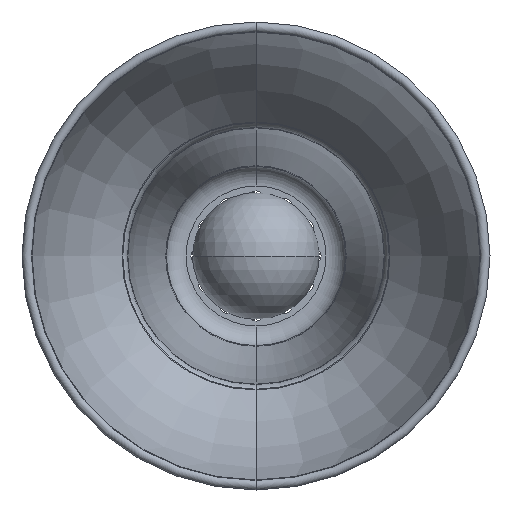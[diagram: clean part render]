
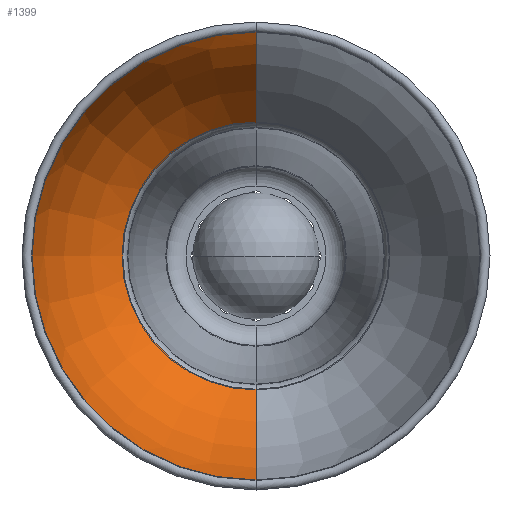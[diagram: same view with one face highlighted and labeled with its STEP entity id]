
A CAD part, front view. The second image highlights one B-rep face of the part: STEP entity #1399.
In plain terms, the highlighted toroidal (fillet/blend) face has major radius 105.017 mm and minor radius 323.006 mm.
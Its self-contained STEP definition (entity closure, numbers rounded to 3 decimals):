
#92 = CARTESIAN_POINT ( 'NONE',  ( 0., 174.821, 126.24 ) ) ;
#95 = VERTEX_POINT ( 'NONE', #92 ) ;
#104 = AXIS2_PLACEMENT_3D ( 'NONE', #1362, #2389, #1975 ) ;
#129 = CIRCLE ( 'NONE', #1807, 323.006 ) ;
#179 = EDGE_LOOP ( 'NONE', ( #1136, #924, #324, #1348 ) ) ;
#219 = DIRECTION ( 'NONE',  ( 1., 0., 0. ) ) ;
#234 = DIRECTION ( 'NONE',  ( 0., 1., 0. ) ) ;
#237 = CARTESIAN_POINT ( 'NONE',  ( 0., -50.686, 105.017 ) ) ;
#249 = CARTESIAN_POINT ( 'NONE',  ( 0., -50.686, -105.017 ) ) ;
#320 = EDGE_CURVE ( 'NONE', #1051, #859, #2391, .T. ) ;
#324 = ORIENTED_EDGE ( 'NONE', *, *, #362, .T. ) ;
#362 = EDGE_CURVE ( 'NONE', #890, #95, #1256, .T. ) ;
#404 = AXIS2_PLACEMENT_3D ( 'NONE', #237, #219, #1805 ) ;
#827 = CARTESIAN_POINT ( 'NONE',  ( 0., 6.968, 212.802 ) ) ;
#846 = EDGE_CURVE ( 'NONE', #1051, #890, #2562, .T. ) ;
#859 = VERTEX_POINT ( 'NONE', #827 ) ;
#890 = VERTEX_POINT ( 'NONE', #1215 ) ;
#924 = ORIENTED_EDGE ( 'NONE', *, *, #846, .T. ) ;
#996 = DIRECTION ( 'NONE',  ( 0., 1., 0. ) ) ;
#1051 = VERTEX_POINT ( 'NONE', #1693 ) ;
#1136 = ORIENTED_EDGE ( 'NONE', *, *, #320, .F. ) ;
#1215 = CARTESIAN_POINT ( 'NONE',  ( 0., 174.821, -126.24 ) ) ;
#1256 = CIRCLE ( 'NONE', #1860, 126.24 ) ;
#1348 = ORIENTED_EDGE ( 'NONE', *, *, #2447, .F. ) ;
#1362 = CARTESIAN_POINT ( 'NONE',  ( 0., 6.968, 0. ) ) ;
#1399 = ADVANCED_FACE ( 'NONE', ( #2456 ), #1896, .F. ) ;
#1571 = DIRECTION ( 'NONE',  ( 0., 0., 1. ) ) ;
#1649 = DIRECTION ( 'NONE',  ( -1., 0., 0. ) ) ;
#1693 = CARTESIAN_POINT ( 'NONE',  ( 0., 6.968, -212.802 ) ) ;
#1793 = CARTESIAN_POINT ( 'NONE',  ( 0., 174.821, 0. ) ) ;
#1805 = DIRECTION ( 'NONE',  ( 0., 0., -1. ) ) ;
#1807 = AXIS2_PLACEMENT_3D ( 'NONE', #249, #1649, #2257 ) ;
#1826 = DIRECTION ( 'NONE',  ( 0., 0., 1. ) ) ;
#1860 = AXIS2_PLACEMENT_3D ( 'NONE', #1793, #996, #1571 ) ;
#1896 = TOROIDAL_SURFACE ( 'NONE', #2461, -105.017, 323.006 ) ;
#1975 = DIRECTION ( 'NONE',  ( 0., 0., 1. ) ) ;
#2242 = CARTESIAN_POINT ( 'NONE',  ( 0., -50.686, 0. ) ) ;
#2257 = DIRECTION ( 'NONE',  ( 0., 0., 1. ) ) ;
#2389 = DIRECTION ( 'NONE',  ( 0., 1., 0. ) ) ;
#2391 = CIRCLE ( 'NONE', #104, 212.802 ) ;
#2447 = EDGE_CURVE ( 'NONE', #859, #95, #129, .T. ) ;
#2456 = FACE_OUTER_BOUND ( 'NONE', #179, .T. ) ;
#2461 = AXIS2_PLACEMENT_3D ( 'NONE', #2242, #234, #1826 ) ;
#2562 = CIRCLE ( 'NONE', #404, 323.006 ) ;
